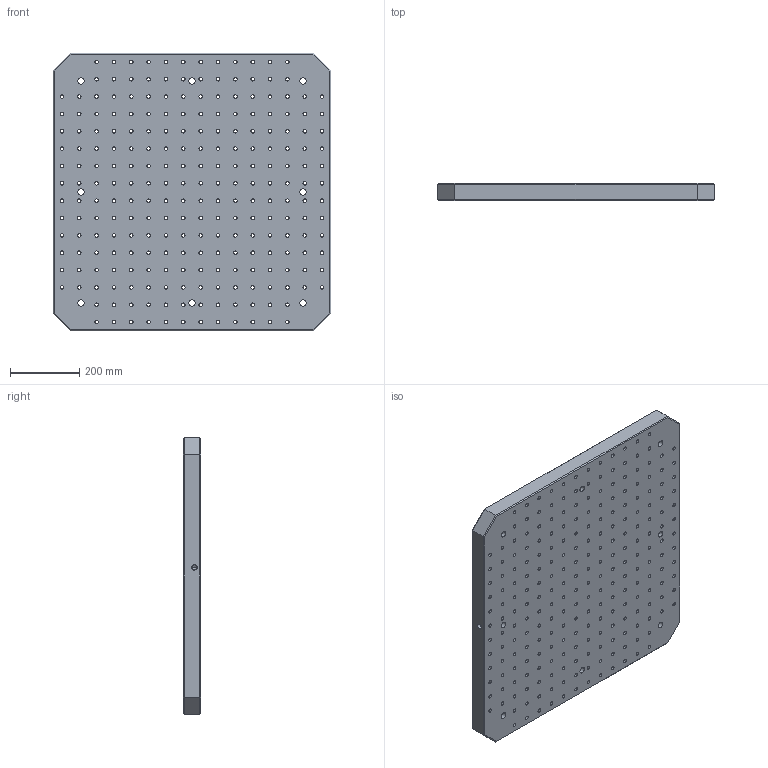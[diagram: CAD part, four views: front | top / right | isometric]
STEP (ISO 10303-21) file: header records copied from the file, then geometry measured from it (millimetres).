
FILE_DESCRIPTION((''),'2;1');
FILE_NAME('FG_WH_BASPL_SQGRDNP004','2026-05-19T10:36:45',('Admin'),(''),'CREO PARAMETRIC BY PTC INC, 2025010','CREO PARAMETRIC BY PTC INC, 2025010','');
FILE_SCHEMA(('CONFIG_CONTROL_DESIGN'));
Length unit declared in the file: millimetre
Products named in the file (1): FG_WH_BASPL_SQGRDNP004
Bounding box: 800 x 50 x 800 mm (x, y, z)
Volume: 30496190.4 mm3; surface area: 2030990.1 mm2
Topology: 1 solids, 244 shells, 2007 faces, 5006 edges, 3489 vertices
Faces by surface type: cylinder 1484, plane 517, cone 6
Entity records: 62794 total; most frequent: DIRECTION 12470, CARTESIAN_POINT 10497, ORIENTED_EDGE 9028, AXIS2_PLACEMENT_3D 5462, EDGE_CURVE 5000, VERTEX_POINT 3489, CIRCLE 3454, EDGE_LOOP 2997
